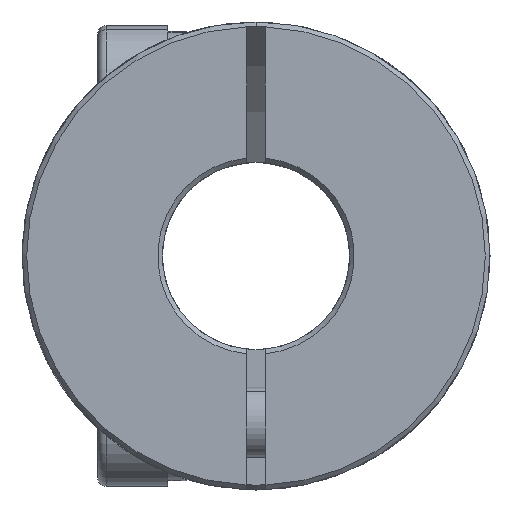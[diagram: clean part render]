
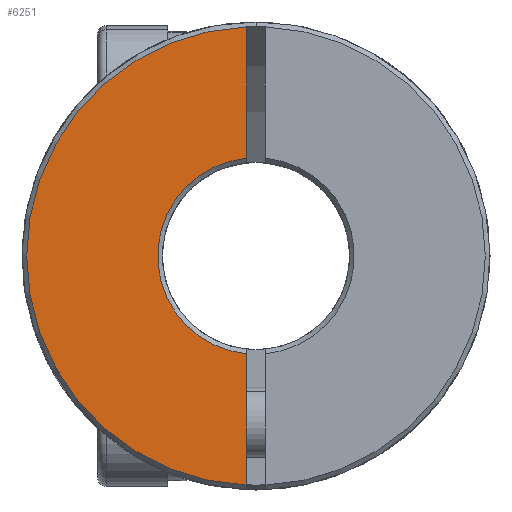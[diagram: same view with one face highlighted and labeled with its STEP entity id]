
A CAD part, front view. The second image highlights one B-rep face of the part: STEP entity #6251.
In plain terms, the highlighted planar face has unit normal (0, -1, 0).
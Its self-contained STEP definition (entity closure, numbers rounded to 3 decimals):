
#443 = AXIS2_PLACEMENT_3D ( 'NONE', #578, #4623, #6448 ) ;
#513 = CARTESIAN_POINT ( 'NONE',  ( 0., -17.5, 0. ) ) ;
#578 = CARTESIAN_POINT ( 'NONE',  ( 0., -17.5, 0. ) ) ;
#974 = ORIENTED_EDGE ( 'NONE', *, *, #1501, .T. ) ;
#1069 = FACE_OUTER_BOUND ( 'NONE', #4342, .T. ) ;
#1134 = DIRECTION ( 'NONE',  ( 0., 0., 1. ) ) ;
#1235 = PLANE ( 'NONE',  #443 ) ;
#1501 = EDGE_CURVE ( 'NONE', #5727, #1562, #6374, .T. ) ;
#1541 = EDGE_CURVE ( 'NONE', #5727, #3632, #5751, .T. ) ;
#1562 = VERTEX_POINT ( 'NONE', #2991 ) ;
#1572 = CIRCLE ( 'NONE', #3169, 4.2 ) ;
#1936 = ORIENTED_EDGE ( 'NONE', *, *, #1541, .F. ) ;
#1976 = VECTOR ( 'NONE', #4821, 1000. ) ;
#1992 = ORIENTED_EDGE ( 'NONE', *, *, #2640, .T. ) ;
#2561 = VECTOR ( 'NONE', #4049, 1000. ) ;
#2614 = AXIS2_PLACEMENT_3D ( 'NONE', #513, #4627, #1134 ) ;
#2640 = EDGE_CURVE ( 'NONE', #5473, #3632, #1572, .T. ) ;
#2991 = CARTESIAN_POINT ( 'NONE',  ( -0.4, -17.5, -9.792 ) ) ;
#3169 = AXIS2_PLACEMENT_3D ( 'NONE', #5168, #4675, #3543 ) ;
#3543 = DIRECTION ( 'NONE',  ( 0., 0., 1. ) ) ;
#3632 = VERTEX_POINT ( 'NONE', #7442 ) ;
#3906 = ORIENTED_EDGE ( 'NONE', *, *, #5813, .F. ) ;
#4049 = DIRECTION ( 'NONE',  ( 0., 0., -1. ) ) ;
#4342 = EDGE_LOOP ( 'NONE', ( #1936, #974, #3906, #1992 ) ) ;
#4623 = DIRECTION ( 'NONE',  ( 0., 1., 0. ) ) ;
#4627 = DIRECTION ( 'NONE',  ( 0., -1., 0. ) ) ;
#4675 = DIRECTION ( 'NONE',  ( 0., 1., 0. ) ) ;
#4821 = DIRECTION ( 'NONE',  ( 0., 0., -1. ) ) ;
#5168 = CARTESIAN_POINT ( 'NONE',  ( 0., -17.5, 0. ) ) ;
#5170 = CARTESIAN_POINT ( 'NONE',  ( -0.4, -17.5, 9.792 ) ) ;
#5473 = VERTEX_POINT ( 'NONE', #6055 ) ;
#5727 = VERTEX_POINT ( 'NONE', #5170 ) ;
#5751 = LINE ( 'NONE', #6332, #2561 ) ;
#5813 = EDGE_CURVE ( 'NONE', #5473, #1562, #7448, .T. ) ;
#6055 = CARTESIAN_POINT ( 'NONE',  ( -0.4, -17.5, -4.181 ) ) ;
#6251 = ADVANCED_FACE ( 'NONE', ( #1069 ), #1235, .F. ) ;
#6332 = CARTESIAN_POINT ( 'NONE',  ( -0.4, -17.5, 0. ) ) ;
#6374 = CIRCLE ( 'NONE', #2614, 9.8 ) ;
#6448 = DIRECTION ( 'NONE',  ( 0., 0., 1. ) ) ;
#7045 = CARTESIAN_POINT ( 'NONE',  ( -0.4, -17.5, 0. ) ) ;
#7442 = CARTESIAN_POINT ( 'NONE',  ( -0.4, -17.5, 4.181 ) ) ;
#7448 = LINE ( 'NONE', #7045, #1976 ) ;
